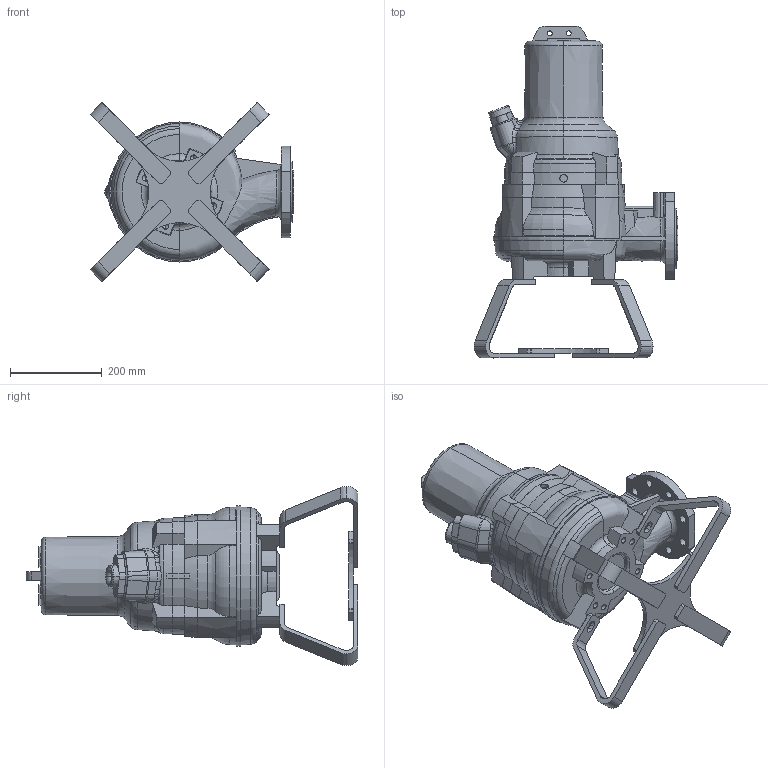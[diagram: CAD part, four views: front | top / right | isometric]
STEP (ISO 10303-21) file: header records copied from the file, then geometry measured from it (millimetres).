
FILE_DESCRIPTION (( 'STEP AP203' ), '1' );
FILE_NAME ('80FWC-V_1,6-2,2-3,1kW BASE FRAME.STEP', '2025-03-21T10:20:36', ( '' ), ( '' ), 'SwSTEP 2.0', 'SolidWorks 2023', '' );
FILE_SCHEMA (( 'CONFIG_CONTROL_DESIGN' ));
Length unit declared in the file: millimetre
Products named in the file (1): 80FWC-V_1,6-2,2-3,1kW BASE FRAME
Bounding box: 443.97 x 723 x 389.95 mm (x, y, z)
Volume: 24712245.5 mm3; surface area: 858923.6 mm2
Topology: 1 solids, 2 shells, 686 faces, 1824 edges, 1171 vertices
Faces by surface type: plane 300, cone 131, cylinder 113, bspline 85, torus 49, sphere 8
Entity records: 29598 total; most frequent: CARTESIAN_POINT 13156, ORIENTED_EDGE 3624, DIRECTION 3174, EDGE_CURVE 1812, AXIS2_PLACEMENT_3D 1212, VERTEX_POINT 1171, EDGE_LOOP 753, LINE 750
